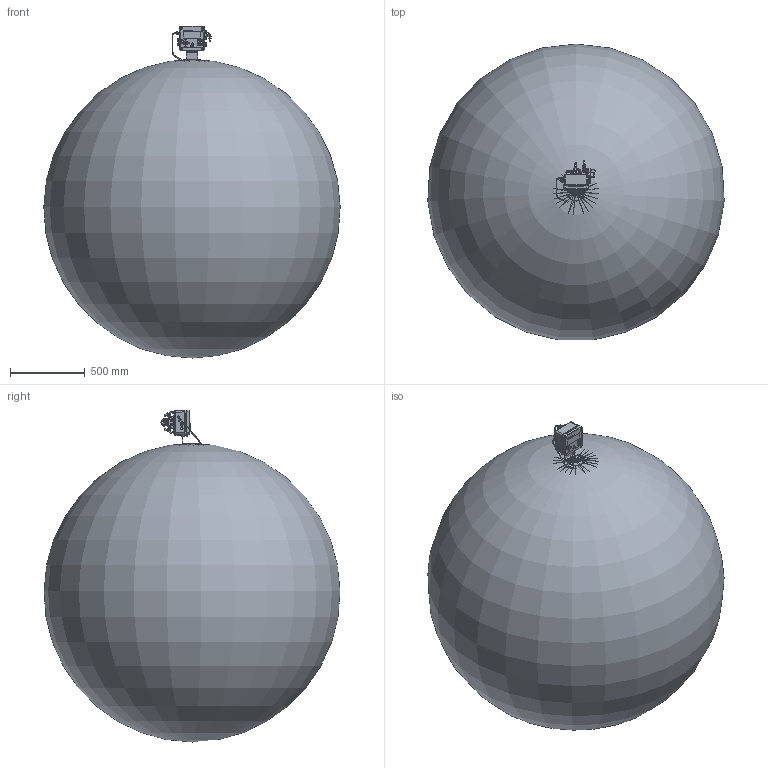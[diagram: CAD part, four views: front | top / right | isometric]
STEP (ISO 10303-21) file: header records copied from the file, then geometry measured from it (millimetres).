
FILE_DESCRIPTION(('STEP AP214'), '1');
FILE_NAME('ÑÃ-ÝÊÐ-Ò-Á DN150 ïðàâûé ñ ÏÏÄ', '', ('UNSPECIFIED'), ('UNSPECIFIED'), 'C3D Converter', 'C3D Toolkit', '');
FILE_SCHEMA(('AUTOMOTIVE_DESIGN { 1 0 10303 214 3 1 1}'));
Length unit declared in the file: millimetre
Bounding box: 1985.41 x 1982.05 x 2224.17 mm (x, y, z)
Volume: 4137176321.8 mm3; surface area: 13657556.3 mm2
Topology: 16 solids, 17 shells, 4424 faces, 11501 edges, 7411 vertices
Faces by surface type: plane 1485, extrusion 1133, cylinder 1022, cone 383, bspline 252, torus 134, sphere 15
Full cylindrical faces by diameter (mm): 2 x28, 2.5 x4, 2.791 x1, 3 x3, 3.2 x2, 3.242 x10, 3.3 x2, 4 x27, 4.134 x5, 4.3 x2, 4.5 x2, 4.917 x4, 5 x17, 5.2 x4, 5.5 x6, 6 x27, 6.2 x4, 6.3 x6, 6.6 x2, 6.647 x2, 7 x11, 8 x5, 8.1 x1, 8.5 x1, 8.77 x2, 8.917 x1, 9.264 x2, 9.4 x4, 9.5 x1, 9.8 x2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
Entity records: 246369 total; most frequent: CARTESIAN_POINT 111926, ORIENTED_EDGE 21766, DIRECTION 16337, EDGE_CURVE 10886, VERTEX_POINT 7394, VECTOR 5645, EDGE_LOOP 5469, AXIS2_PLACEMENT_3D 5346
